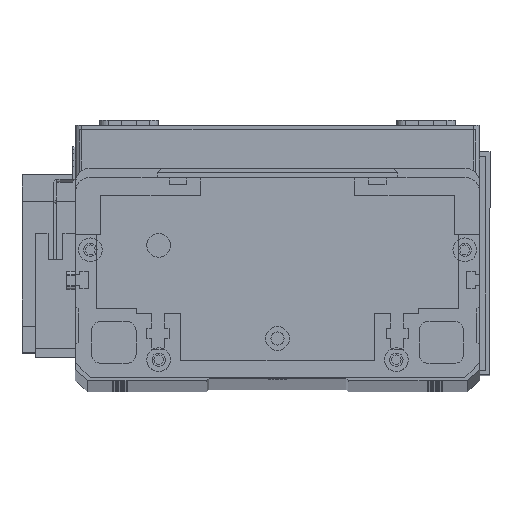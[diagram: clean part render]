
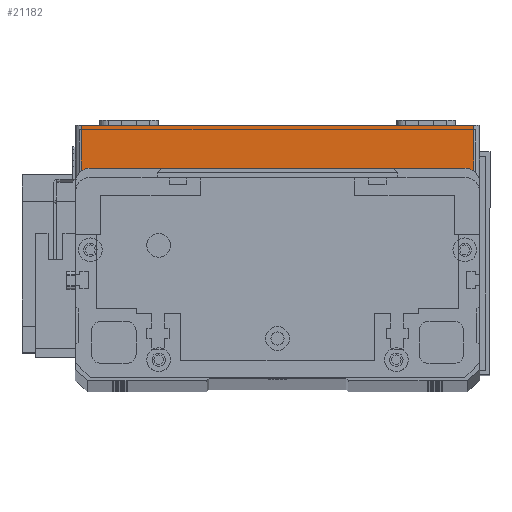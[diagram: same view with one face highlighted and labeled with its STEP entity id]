
A CAD part, top view. The second image highlights one B-rep face of the part: STEP entity #21182.
In plain terms, the highlighted planar face has unit normal (0, 0, 1) as drawn and (0, -1, 0) by its records, which use the part's own axes.
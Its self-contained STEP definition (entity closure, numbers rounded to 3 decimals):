
#1214 = DIRECTION ( 'NONE',  ( 1., 0., 0. ) ) ;
#4012 = VECTOR ( 'NONE', #1214, 1000. ) ;
#4688 = CARTESIAN_POINT ( 'NONE',  ( 0., 0., 19.5 ) ) ;
#5466 = DIRECTION ( 'NONE',  ( 1., 0., 0. ) ) ;
#5817 = VECTOR ( 'NONE', #10676, 1000. ) ;
#7009 = DIRECTION ( 'NONE',  ( 0., 0., 1. ) ) ;
#7436 = EDGE_CURVE ( 'NONE', #13514, #25385, #27384, .T. ) ;
#7669 = CARTESIAN_POINT ( 'NONE',  ( 134., 0., 19.5 ) ) ;
#9242 = EDGE_CURVE ( 'NONE', #9278, #20140, #28411, .T. ) ;
#9278 = VERTEX_POINT ( 'NONE', #10782 ) ;
#10676 = DIRECTION ( 'NONE',  ( 0., 0., 1. ) ) ;
#10782 = CARTESIAN_POINT ( 'NONE',  ( 134., 0., 0. ) ) ;
#13514 = VERTEX_POINT ( 'NONE', #20008 ) ;
#13677 = CARTESIAN_POINT ( 'NONE',  ( 2., 0., 0. ) ) ;
#13946 = PLANE ( 'NONE',  #25635 ) ;
#14450 = EDGE_CURVE ( 'NONE', #13514, #20140, #28966, .T. ) ;
#16381 = LINE ( 'NONE', #26775, #4012 ) ;
#16808 = ORIENTED_EDGE ( 'NONE', *, *, #9242, .T. ) ;
#18036 = VECTOR ( 'NONE', #5466, 1000. ) ;
#18865 = ORIENTED_EDGE ( 'NONE', *, *, #21572, .T. ) ;
#20008 = CARTESIAN_POINT ( 'NONE',  ( 2., 0., 19.5 ) ) ;
#20140 = VERTEX_POINT ( 'NONE', #7669 ) ;
#20435 = VECTOR ( 'NONE', #23081, 1000. ) ;
#20693 = ORIENTED_EDGE ( 'NONE', *, *, #7436, .T. ) ;
#20968 = DIRECTION ( 'NONE',  ( 0., 1., 0. ) ) ;
#21141 = FACE_OUTER_BOUND ( 'NONE', #26502, .T. ) ;
#21182 = ADVANCED_FACE ( 'NONE', ( #21141 ), #13946, .F. ) ;
#21572 = EDGE_CURVE ( 'NONE', #25385, #9278, #16381, .T. ) ;
#21758 = CARTESIAN_POINT ( 'NONE',  ( 0., 0., 19.5 ) ) ;
#23081 = DIRECTION ( 'NONE',  ( 0., 0., -1. ) ) ;
#25385 = VERTEX_POINT ( 'NONE', #13677 ) ;
#25434 = CARTESIAN_POINT ( 'NONE',  ( 2., 0., 19.5 ) ) ;
#25635 = AXIS2_PLACEMENT_3D ( 'NONE', #4688, #20968, #7009 ) ;
#26502 = EDGE_LOOP ( 'NONE', ( #27986, #20693, #18865, #16808 ) ) ;
#26775 = CARTESIAN_POINT ( 'NONE',  ( 0., 0., 0. ) ) ;
#26990 = CARTESIAN_POINT ( 'NONE',  ( 134., 0., 19.5 ) ) ;
#27384 = LINE ( 'NONE', #25434, #20435 ) ;
#27986 = ORIENTED_EDGE ( 'NONE', *, *, #14450, .F. ) ;
#28411 = LINE ( 'NONE', #26990, #5817 ) ;
#28966 = LINE ( 'NONE', #21758, #18036 ) ;
